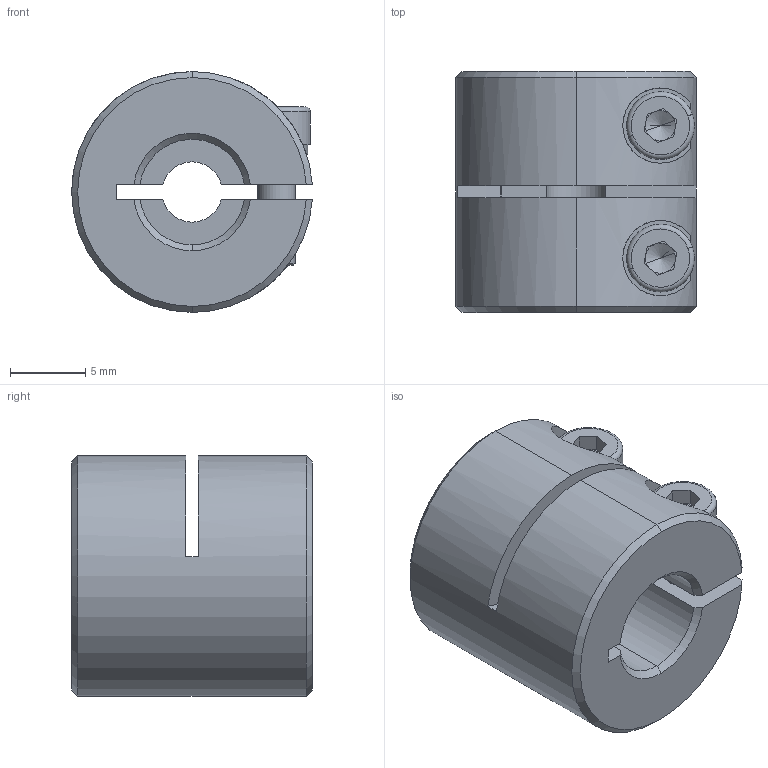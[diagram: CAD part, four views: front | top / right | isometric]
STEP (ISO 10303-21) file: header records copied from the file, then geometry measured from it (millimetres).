
FILE_DESCRIPTION (( 'STEP AP203' ), '1' );
FILE_NAME ('LL-B-D16L16-4-7.STEP', '2021-11-03T02:38:52', ( '' ), ( '' ), 'SwSTEP 2.0', 'SolidWorks 2018', '' );
FILE_SCHEMA (( 'CONFIG_CONTROL_DESIGN' ));
Length unit declared in the file: millimetre
Products named in the file (1): LL-B-D16L16-4-7
Bounding box: 15.98 x 16 x 16 mm (x, y, z)
Volume: 2603.3 mm3; surface area: 2034.5 mm2
Topology: 1 solids, 1 shells, 121 faces, 313 edges, 196 vertices
Faces by surface type: plane 52, cylinder 45, cone 20, torus 4
Entity records: 3948 total; most frequent: CARTESIAN_POINT 879, DIRECTION 653, ORIENTED_EDGE 618, EDGE_CURVE 309, AXIS2_PLACEMENT_3D 254, VERTEX_POINT 196, VECTOR 145, LINE 145
